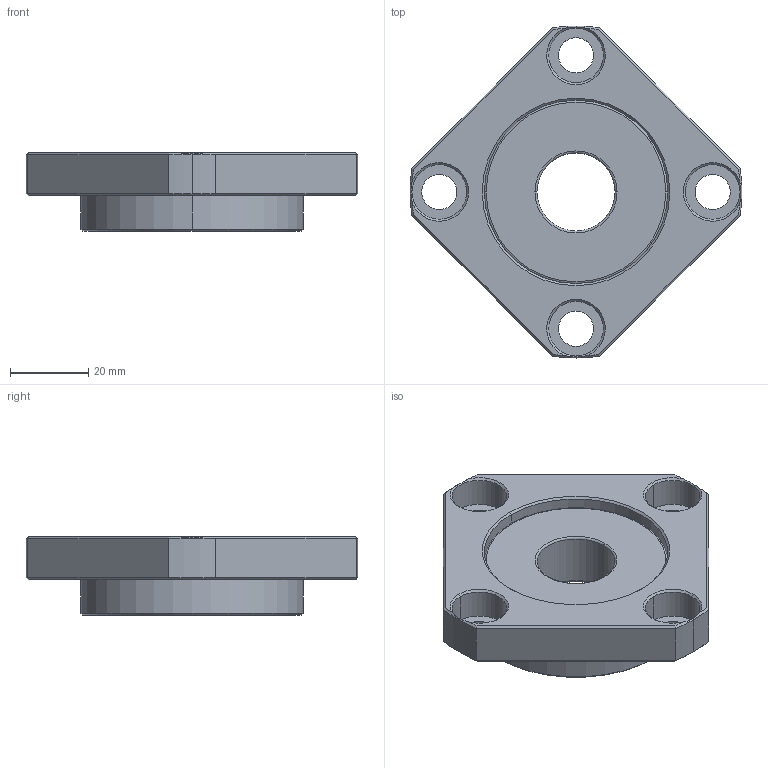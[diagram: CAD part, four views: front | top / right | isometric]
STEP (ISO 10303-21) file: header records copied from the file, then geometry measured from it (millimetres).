
FILE_DESCRIPTION (( 'STEP AP203' ), '1' );
FILE_NAME ('FSGF-20_203.STEP', '2013-02-28T00:09:39', ( '' ), ( '' ), 'SwSTEP 2.0', 'SolidWorks 2012', '' );
FILE_SCHEMA (( 'CONFIG_CONTROL_DESIGN' ));
Length unit declared in the file: millimetre
Products named in the file (1): FSGF-20_203
Bounding box: 84.9 x 85 x 20 mm (x, y, z)
Volume: 51727.2 mm3; surface area: 15612.2 mm2
Topology: 1 solids, 1 shells, 82 faces, 198 edges, 121 vertices
Faces by surface type: cylinder 29, cone 24, plane 21, torus 8
Entity records: 2534 total; most frequent: CARTESIAN_POINT 471, DIRECTION 455, ORIENTED_EDGE 396, EDGE_CURVE 198, AXIS2_PLACEMENT_3D 195, VERTEX_POINT 121, CIRCLE 112, EDGE_LOOP 95
